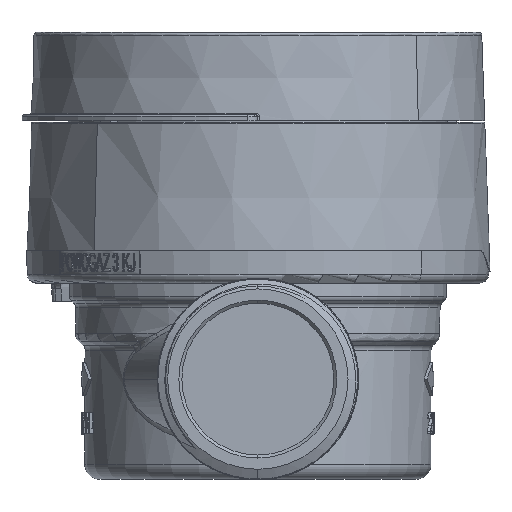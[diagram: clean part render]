
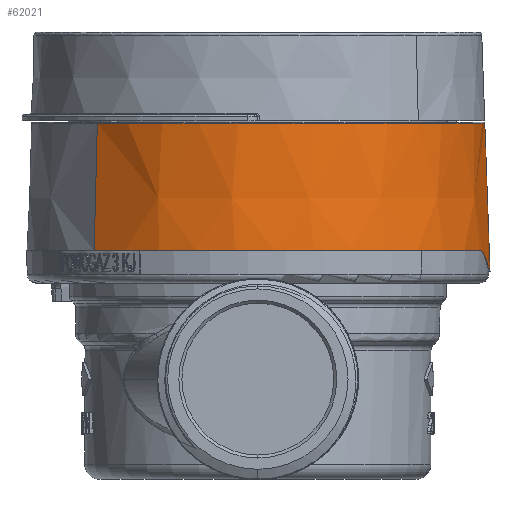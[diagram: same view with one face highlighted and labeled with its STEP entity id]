
A CAD part, left-side view. The second image highlights one B-rep face of the part: STEP entity #62021.
In plain terms, the highlighted conical face has half-angle 2 degrees and reference radius 37.9 mm.
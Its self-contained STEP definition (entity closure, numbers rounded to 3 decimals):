
#512 = ORIENTED_EDGE ( 'NONE', *, *, #110900, .T. ) ;
#1214 = CARTESIAN_POINT ( 'NONE',  ( -37.357, 24.457, 0. ) ) ;
#1583 = CARTESIAN_POINT ( 'NONE',  ( 25.169, 0.341, 28.735 ) ) ;
#3943 = CIRCLE ( 'NONE', #68200, 37.357 ) ;
#4331 = VERTEX_POINT ( 'NONE', #37821 ) ;
#7380 = VECTOR ( 'NONE', #75546, 1000. ) ;
#8474 = LINE ( 'NONE', #121759, #7380 ) ;
#8873 = EDGE_CURVE ( 'NONE', #80373, #123826, #116238, .T. ) ;
#9301 = CARTESIAN_POINT ( 'NONE',  ( 17.892, 3.5, 33.624 ) ) ;
#10410 = DIRECTION ( 'NONE',  ( 0., -1., 0. ) ) ;
#11139 = EDGE_CURVE ( 'NONE', #138615, #91936, #123398, .T. ) ;
#15534 = DIRECTION ( 'NONE',  ( -0.035, -0.999, 0. ) ) ;
#16415 = CARTESIAN_POINT ( 'NONE',  ( 25.571, 0.217, 28.383 ) ) ;
#16851 = CARTESIAN_POINT ( 'NONE',  ( 19.197, 3.362, 32.904 ) ) ;
#17131 = CARTESIAN_POINT ( 'NONE',  ( 22.026, 2.042, 31.166 ) ) ;
#19229 = VERTEX_POINT ( 'NONE', #137143 ) ;
#21691 =( BOUNDED_CURVE ( )  B_SPLINE_CURVE ( 3, ( #129697, #17131, #38779, #82693 ),
 .UNSPECIFIED., .F., .F. ) 
 B_SPLINE_CURVE_WITH_KNOTS ( ( 4, 4 ),
 ( 5.276, 5.382 ),
 .UNSPECIFIED. ) 
 CURVE ( )  GEOMETRIC_REPRESENTATION_ITEM ( )  RATIONAL_B_SPLINE_CURVE ( ( 1., 0.999, 0.999, 1. ) ) 
 REPRESENTATION_ITEM ( '' )  );
#26898 = CARTESIAN_POINT ( 'NONE',  ( 24.17, 0.804, 29.559 ) ) ;
#28106 = EDGE_CURVE ( 'NONE', #86242, #80373, #3943, .T. ) ;
#32835 = ORIENTED_EDGE ( 'NONE', *, *, #11139, .T. ) ;
#37499 = ORIENTED_EDGE ( 'NONE', *, *, #28106, .T. ) ;
#37821 = CARTESIAN_POINT ( 'NONE',  ( -38.089, 3.5, 0. ) ) ;
#38779 = CARTESIAN_POINT ( 'NONE',  ( 23.119, 1.41, 30.391 ) ) ;
#38808 = CARTESIAN_POINT ( 'NONE',  ( 24.988, 0.409, 28.889 ) ) ;
#39792 = CARTESIAN_POINT ( 'NONE',  ( 0., 24.457, 0. ) ) ;
#39815 = B_SPLINE_CURVE_WITH_KNOTS ( 'NONE', 3,
 ( #93609, #85365, #130880, #115975, #16851, #59345, #50407, #104749 ),
 .UNSPECIFIED., .F., .F.,
 ( 4, 2, 2, 4 ),
 ( 0., 0.25, 0.5, 1. ),
 .UNSPECIFIED. ) ;
#39821 = AXIS2_PLACEMENT_3D ( 'NONE', #139184, #114627, #116815 ) ;
#42474 = CARTESIAN_POINT ( 'NONE',  ( 26.54, 0.014, 27.498 ) ) ;
#46238 = ORIENTED_EDGE ( 'NONE', *, *, #8873, .T. ) ;
#47028 = CARTESIAN_POINT ( 'NONE',  ( 25.385, 0.271, 28.548 ) ) ;
#47545 = CARTESIAN_POINT ( 'NONE',  ( 0., 8.9, 0. ) ) ;
#50407 = CARTESIAN_POINT ( 'NONE',  ( 20.438, 2.958, 32.167 ) ) ;
#57556 = CARTESIAN_POINT ( 'NONE',  ( 26.415, 24.457, 26.415 ) ) ;
#57783 = CARTESIAN_POINT ( 'NONE',  ( 27.019, 0.002, 27.019 ) ) ;
#59345 = CARTESIAN_POINT ( 'NONE',  ( 19.958, 3.158, 32.46 ) ) ;
#61120 = ORIENTED_EDGE ( 'NONE', *, *, #145633, .T. ) ;
#61459 = AXIS2_PLACEMENT_3D ( 'NONE', #47545, #137005, #116083 ) ;
#62021 = ADVANCED_FACE ( 'NONE', ( #91518 ), #73343, .T. ) ;
#63413 = VERTEX_POINT ( 'NONE', #9301 ) ;
#68200 = AXIS2_PLACEMENT_3D ( 'NONE', #39792, #82984, #94913 ) ;
#72153 = LINE ( 'NONE', #140731, #131734 ) ;
#72309 = CARTESIAN_POINT ( 'NONE',  ( 24.396, 0.673, 29.38 ) ) ;
#73343 = CONICAL_SURFACE ( 'NONE', #61459, 37.9, 0.035 ) ;
#75546 = DIRECTION ( 'NONE',  ( 0.025, -0.999, 0.025 ) ) ;
#76002 = CARTESIAN_POINT ( 'NONE',  ( 26.066, 0.083, 27.942 ) ) ;
#77265 = ORIENTED_EDGE ( 'NONE', *, *, #126800, .T. ) ;
#79677 = DIRECTION ( 'NONE',  ( 1., 0., 0. ) ) ;
#80373 = VERTEX_POINT ( 'NONE', #114830 ) ;
#82693 = CARTESIAN_POINT ( 'NONE',  ( 24.17, 0.804, 29.559 ) ) ;
#82984 = DIRECTION ( 'NONE',  ( 0., -1., 0. ) ) ;
#85365 = CARTESIAN_POINT ( 'NONE',  ( 18.157, 3.5, 33.484 ) ) ;
#85832 = EDGE_LOOP ( 'NONE', ( #37499, #46238, #77265, #512, #143850, #61120, #32835, #115356 ) ) ;
#86242 = VERTEX_POINT ( 'NONE', #57556 ) ;
#86288 = CARTESIAN_POINT ( 'NONE',  ( 24.17, 0.804, 29.559 ) ) ;
#87906 = CARTESIAN_POINT ( 'NONE',  ( 25.588, 0.212, 28.368 ) ) ;
#91518 = FACE_OUTER_BOUND ( 'NONE', #85832, .T. ) ;
#91936 = VERTEX_POINT ( 'NONE', #57783 ) ;
#93609 = CARTESIAN_POINT ( 'NONE',  ( 17.892, 3.5, 33.624 ) ) ;
#94913 = DIRECTION ( 'NONE',  ( 1., 0., 0. ) ) ;
#95405 = CARTESIAN_POINT ( 'NONE',  ( 24.629, 0.558, 29.19 ) ) ;
#99066 = CARTESIAN_POINT ( 'NONE',  ( 27.019, 0.002, 27.019 ) ) ;
#104749 = CARTESIAN_POINT ( 'NONE',  ( 20.892, 2.696, 31.881 ) ) ;
#105604 = EDGE_CURVE ( 'NONE', #86242, #91936, #8474, .T. ) ;
#106697 = EDGE_CURVE ( 'NONE', #63413, #19229, #39815, .T. ) ;
#110900 = EDGE_CURVE ( 'NONE', #4331, #63413, #137348, .T. ) ;
#112497 = CARTESIAN_POINT ( 'NONE',  ( 0., 24.457, 0. ) ) ;
#114627 = DIRECTION ( 'NONE',  ( 0., 1., 0. ) ) ;
#114830 = CARTESIAN_POINT ( 'NONE',  ( 0., 24.457, 37.357 ) ) ;
#115356 = ORIENTED_EDGE ( 'NONE', *, *, #105604, .F. ) ;
#115975 = CARTESIAN_POINT ( 'NONE',  ( 18.938, 3.414, 33.052 ) ) ;
#116083 = DIRECTION ( 'NONE',  ( -1., 0., 0. ) ) ;
#116238 = CIRCLE ( 'NONE', #132998, 37.357 ) ;
#116815 = DIRECTION ( 'NONE',  ( -1., 0., 0. ) ) ;
#121759 = CARTESIAN_POINT ( 'NONE',  ( 26.799, 8.9, 26.799 ) ) ;
#123398 = B_SPLINE_CURVE_WITH_KNOTS ( 'NONE', 3,
 ( #26898, #72309, #95405, #38808, #1583, #47028, #137935, #141623, #16415, #87906, #76002, #42474, #99066 ),
 .UNSPECIFIED., .F., .F.,
 ( 4, 2, 1, 1, 1, 2, 2, 4 ),
 ( 0., 0.25, 0.375, 0.438, 0.469, 0.484, 0.5, 1. ),
 .UNSPECIFIED. ) ;
#123826 = VERTEX_POINT ( 'NONE', #1214 ) ;
#126800 = EDGE_CURVE ( 'NONE', #123826, #4331, #72153, .T. ) ;
#129697 = CARTESIAN_POINT ( 'NONE',  ( 20.892, 2.696, 31.881 ) ) ;
#130880 = CARTESIAN_POINT ( 'NONE',  ( 18.419, 3.483, 33.341 ) ) ;
#131734 = VECTOR ( 'NONE', #15534, 1000. ) ;
#132998 = AXIS2_PLACEMENT_3D ( 'NONE', #112497, #10410, #79677 ) ;
#137005 = DIRECTION ( 'NONE',  ( 0., -1., 0. ) ) ;
#137143 = CARTESIAN_POINT ( 'NONE',  ( 20.892, 2.696, 31.881 ) ) ;
#137348 = CIRCLE ( 'NONE', #39821, 38.089 ) ;
#137935 = CARTESIAN_POINT ( 'NONE',  ( 25.493, 0.239, 28.452 ) ) ;
#138615 = VERTEX_POINT ( 'NONE', #86288 ) ;
#139184 = CARTESIAN_POINT ( 'NONE',  ( 0., 3.5, 0. ) ) ;
#140731 = CARTESIAN_POINT ( 'NONE',  ( -37.9, 8.9, 0. ) ) ;
#141623 = CARTESIAN_POINT ( 'NONE',  ( 25.54, 0.226, 28.411 ) ) ;
#143850 = ORIENTED_EDGE ( 'NONE', *, *, #106697, .T. ) ;
#145633 = EDGE_CURVE ( 'NONE', #19229, #138615, #21691, .T. ) ;
